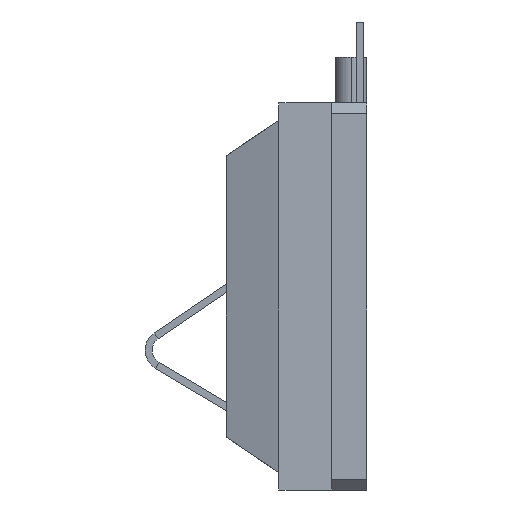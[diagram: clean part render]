
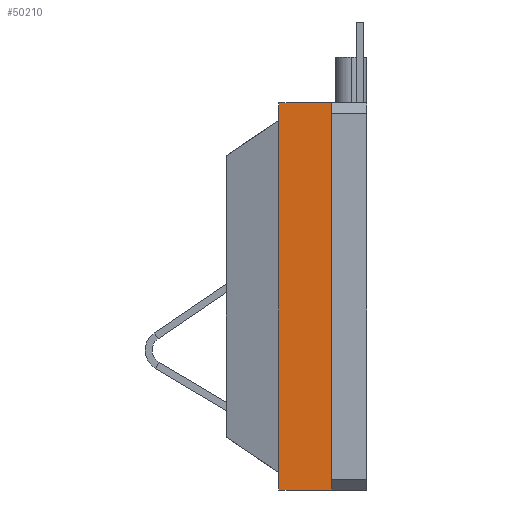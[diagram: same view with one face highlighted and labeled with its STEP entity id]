
A CAD part, left-side view. The second image highlights one B-rep face of the part: STEP entity #50210.
In plain terms, the highlighted planar face has unit normal (-1, 0, 0).
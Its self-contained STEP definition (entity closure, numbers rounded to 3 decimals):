
#26010=CARTESIAN_POINT('',(28.462,33.758,-7.4));
#26020=VERTEX_POINT('',#26010);
#49460=CARTESIAN_POINT('',(28.462,32.258,3.1));
#49470=VERTEX_POINT('',#49460);
#49640=CARTESIAN_POINT('',(28.462,32.258,-7.9));
#49650=VERTEX_POINT('',#49640);
#49680=CARTESIAN_POINT('',(28.462,32.258,-0.05));
#49690=DIRECTION('',(0.,0.,-1.));
#49700=VECTOR('',#49690,1.);
#49710=LINE('',#49680,#49700);
#49720=EDGE_CURVE('',#49470,#49650,#49710,.T.);
#49770=CARTESIAN_POINT('',(28.462,33.758,-0.05));
#49780=DIRECTION('',(-1.,0.,0.));
#49790=DIRECTION('',(0.,-1.,0.));
#49800=AXIS2_PLACEMENT_3D('',#49770,#49780,#49790);
#49810=PLANE('',#49800);
#49820=CARTESIAN_POINT('',(28.462,33.758,0.));
#49830=DIRECTION('',(0.,0.,1.));
#49840=VECTOR('',#49830,1.);
#49850=LINE('',#49820,#49840);
#49860=CARTESIAN_POINT('',(28.462,33.758,2.6));
#49870=VERTEX_POINT('',#49860);
#49880=CARTESIAN_POINT('',(28.462,33.758,3.1));
#49890=VERTEX_POINT('',#49880);
#49900=EDGE_CURVE('',#49870,#49890,#49850,.T.);
#49910=ORIENTED_EDGE('',*,*,#49900,.F.);
#49920=CARTESIAN_POINT('',(28.462,31.927,3.1));
#49930=DIRECTION('',(0.,-1.,0.));
#49940=VECTOR('',#49930,1.);
#49950=LINE('',#49920,#49940);
#49960=EDGE_CURVE('',#49890,#49470,#49950,.T.);
#49970=ORIENTED_EDGE('',*,*,#49960,.F.);
#49980=ORIENTED_EDGE('',*,*,#49720,.F.);
#49990=CARTESIAN_POINT('',(28.462,32.258,-7.9));
#50000=DIRECTION('',(0.,1.,0.));
#50010=VECTOR('',#50000,1.);
#50020=LINE('',#49990,#50010);
#50030=CARTESIAN_POINT('',(28.462,33.758,-7.9));
#50040=VERTEX_POINT('',#50030);
#50050=EDGE_CURVE('',#49650,#50040,#50020,.T.);
#50060=ORIENTED_EDGE('',*,*,#50050,.F.);
#50070=CARTESIAN_POINT('',(28.462,33.758,-0.05));
#50080=DIRECTION('',(0.,0.,1.));
#50090=VECTOR('',#50080,1.);
#50100=LINE('',#50070,#50090);
#50110=EDGE_CURVE('',#50040,#26020,#50100,.T.);
#50120=ORIENTED_EDGE('',*,*,#50110,.F.);
#50130=CARTESIAN_POINT('',(28.462,33.758,-0.05));
#50140=DIRECTION('',(0.,0.,-1.));
#50150=VECTOR('',#50140,1.);
#50160=LINE('',#50130,#50150);
#50170=EDGE_CURVE('',#49870,#26020,#50160,.T.);
#50180=ORIENTED_EDGE('',*,*,#50170,.T.);
#50190=EDGE_LOOP('',(#50180,#50120,#50060,#49980,#49970,#49910));
#50200=FACE_OUTER_BOUND('',#50190,.T.);
#50210=ADVANCED_FACE('',(#50200),#49810,.T.);
